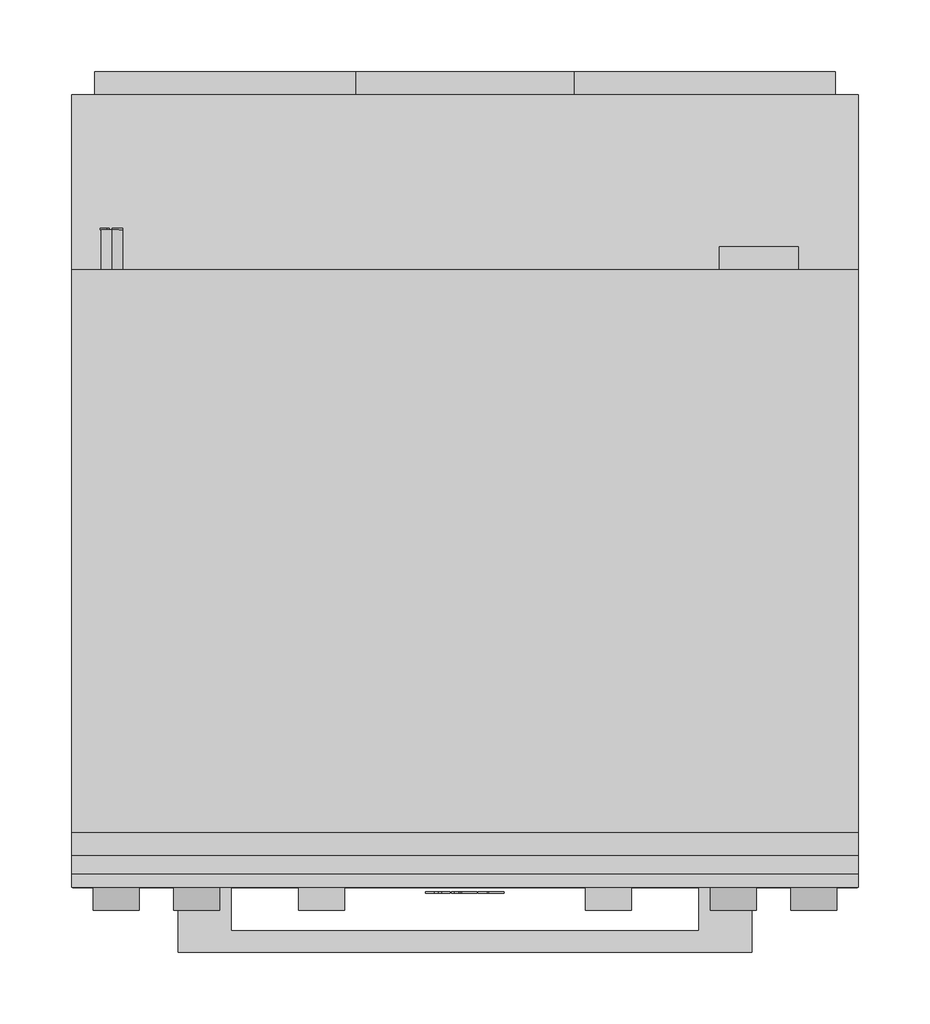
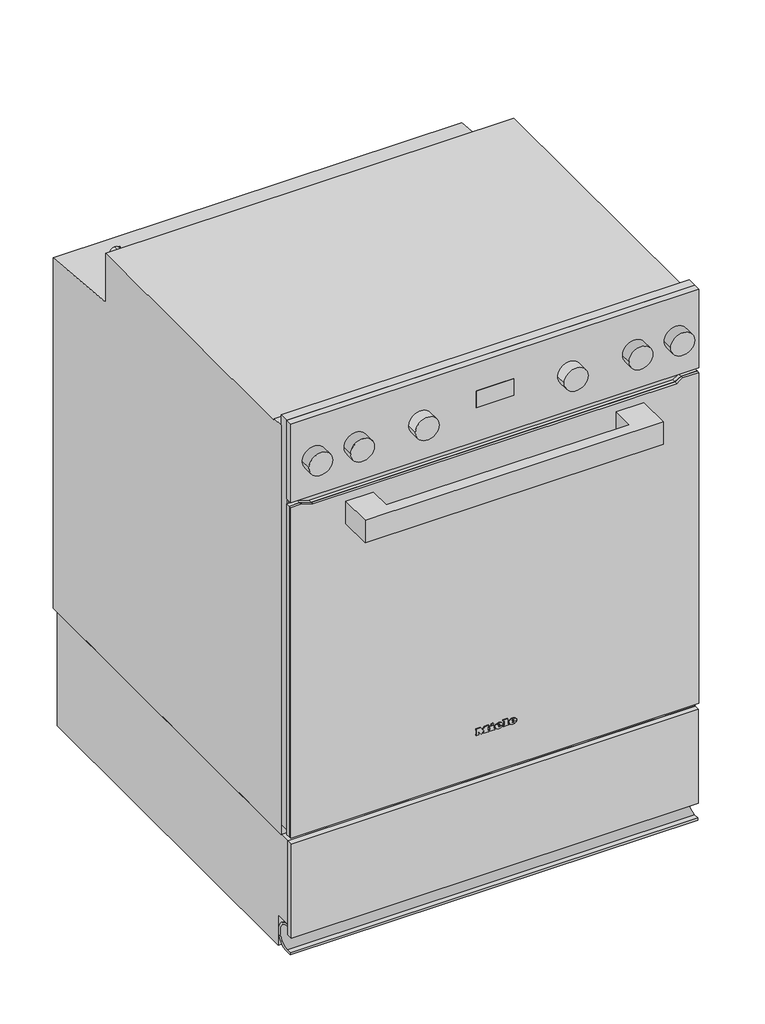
# Not in any storey: 1 proxy.
"""IFC4 building model written with IfcOpenShell, lengths in millimetres."""

import ifcopenshell
import ifcopenshell.guid

model = None  # the IFC model being written
_history = None  # IfcOwnerHistory: only IFC2X3 demands one
_inside = {}  # id of a spatial element -> (the spatial element, [elements in it])
_under = {}  # id of a project, library or spatial element -> (it, [spatial elements below it])
_declared = {}  # id of a project -> (the project, [libraries it declares])
_typed = {}  # id of a type object -> (the type object, [elements of that type])
_made_of = {}  # id of a material, layer set ... -> (it, [elements and type objects made of it])


def new_model(schema):
    """Start an empty IFC model of exactly this schema.

    Asked for "IFC4X3", IfcOpenShell would pick the latest addendum, in which some entities
    have other attributes; the version numbers below select the first issue.
    IFC2X3 requires an IfcOwnerHistory on every rooted entity: one is made here for all.
    """
    global model, _history
    if schema == "IFC4X3":
        model = ifcopenshell.file(schema_version=(4, 3, 0, 0))
    else:
        model = ifcopenshell.file(schema=schema)
    _inside.clear()
    _under.clear()
    _declared.clear()
    _typed.clear()
    _made_of.clear()
    _history = None
    if model.schema == "IFC2X3":
        org = make("IfcOrganization", Name="unknown")
        user = make(
            "IfcPersonAndOrganization",
            ThePerson=make("IfcPerson", FamilyName="unknown"),
            TheOrganization=org,
        )
        app = make(
            "IfcApplication",
            ApplicationDeveloper=org,
            Version="unknown",
            ApplicationFullName="unknown",
            ApplicationIdentifier="unknown",
        )
        _history = make(
            "IfcOwnerHistory",
            OwningUser=user,
            OwningApplication=app,
            ChangeAction="ADDED",
            CreationDate=0,
        )
    return model


def make(cls, **values):
    """One entity of the class cls with the attributes given. An attribute that is None is left unset."""
    return model.create_entity(
        cls, **{name: value for name, value in values.items() if value is not None}
    )


def rooted(cls, **values):
    """An entity with a GlobalId (a new one), such as an element, a storey or a relation."""
    return make(cls, GlobalId=ifcopenshell.guid.new(), OwnerHistory=_history, **values)


def si_unit(unit_type, name, prefix=None):
    """IfcSIUnit, for example si_unit("LENGTHUNIT", "METRE", prefix="MILLI")."""
    return make("IfcSIUnit", UnitType=unit_type, Prefix=prefix, Name=name)


def assignment(units):
    """IfcUnitAssignment: the units of a project."""
    return None if units is None else make("IfcUnitAssignment", Units=units)


def point(xyz):
    """IfcCartesianPoint."""
    return None if xyz is None else make("IfcCartesianPoint", Coordinates=xyz)


def direction(xyz):
    """IfcDirection."""
    return None if xyz is None else make("IfcDirection", DirectionRatios=xyz)


def frame(location, z_axis=None, x_axis=None):
    """IfcAxis2Placement3D, a coordinate frame: its origin and axes. An axis left out is left unset."""
    return make(
        "IfcAxis2Placement3D",
        Location=point(location),
        Axis=direction(z_axis),
        RefDirection=direction(x_axis),
    )


def frame_2d(location, x_axis=None):
    """IfcAxis2Placement2D, a coordinate frame in the plane: its origin and x axis."""
    return make(
        "IfcAxis2Placement2D", Location=point(location), RefDirection=direction(x_axis)
    )


def origin():
    """The frame at (0, 0, 0) with its axes left unset."""
    return frame((0.0, 0.0, 0.0))


def place(relative_to, where):
    """IfcLocalPlacement: puts the frame where relative to a parent placement (None: the world)."""
    return make(
        "IfcLocalPlacement", PlacementRelTo=relative_to, RelativePlacement=where
    )


def context(
    kind, dimensions, precision=None, world=None, true_north=None, identifier=None
):
    """IfcGeometricRepresentationContext, for example the 3D "Model" context."""
    return make(
        "IfcGeometricRepresentationContext",
        ContextIdentifier=identifier,
        ContextType=kind,
        CoordinateSpaceDimension=dimensions,
        Precision=precision,
        WorldCoordinateSystem=world,
        TrueNorth=true_north,
    )


def project(units=None, contexts=None):
    """IfcProject with its units and contexts."""
    return rooted(
        "IfcProject",
        Name="project",
        RepresentationContexts=contexts,
        UnitsInContext=assignment(units),
    )


def spatial(cls, under=None, at=None, **own):
    """A site, building, storey or space (cls), placed at a placement, below another one or the project."""
    s = rooted(cls, ObjectPlacement=at, **own)
    if under is not None:
        _under.setdefault(under.id(), (under, []))[1].append(s)
    return s


def polyline(points):
    """IfcPolyline through the points."""
    return make("IfcPolyline", Points=[point(p) for p in points])


def circle_curve(where, radius):
    """IfcCircle in the frame where."""
    return make("IfcCircle", Position=where, Radius=radius)


def ellipse_curve(where, semi_axis1, semi_axis2):
    """IfcEllipse in the frame where."""
    return make(
        "IfcEllipse", Position=where, SemiAxis1=semi_axis1, SemiAxis2=semi_axis2
    )


def trimmed(basis, trim1, trim2, sense, master):
    """IfcTrimmedCurve: the piece of a basis curve between two trims."""
    return make(
        "IfcTrimmedCurve",
        BasisCurve=basis,
        Trim1=trim1,
        Trim2=trim2,
        SenseAgreement=sense,
        MasterRepresentation=master,
    )


def segment(curve, same_sense, transition):
    """IfcCompositeCurveSegment."""
    return make(
        "IfcCompositeCurveSegment",
        Transition=transition,
        SameSense=same_sense,
        ParentCurve=curve,
    )


def composite_curve(segments, self_intersect=None):
    """IfcCompositeCurve: segments joined end to end."""
    return make("IfcCompositeCurve", Segments=segments, SelfIntersect=self_intersect)


def outline(outer, holes=None, kind="AREA"):
    """IfcArbitraryClosedProfileDef: a profile drawn as a closed curve; with holes, ...WithVoids."""
    if holes is None:
        return make("IfcArbitraryClosedProfileDef", ProfileType=kind, OuterCurve=outer)
    return make(
        "IfcArbitraryProfileDefWithVoids",
        ProfileType=kind,
        OuterCurve=outer,
        InnerCurves=holes,
    )


def extrude(swept, where, along, depth):
    """IfcExtrudedAreaSolid: the profile swept, set in the frame where, extruded along a direction by depth."""
    return make(
        "IfcExtrudedAreaSolid",
        SweptArea=swept,
        Position=where,
        ExtrudedDirection=direction(along),
        Depth=depth,
    )


def faces_of(points, faces, orient=None, outer=None):
    """IfcFace entities. A face is a list of loops; a loop is a list of indices into points, from 0.

    orient and outer hold one flag for each loop. By default every Orientation is true, the
    first loop of a face is its IfcFaceOuterBound and the others are IfcFaceBound.
    """
    made = []
    for i, loops in enumerate(faces):
        bounds = []
        for j, loop in enumerate(loops):
            is_outer = j == 0 if outer is None else outer[i][j]
            bounds.append(
                make(
                    "IfcFaceOuterBound" if is_outer else "IfcFaceBound",
                    Bound=make("IfcPolyLoop", Polygon=[points[k] for k in loop]),
                    Orientation=True if orient is None else orient[i][j],
                )
            )
        made.append(make("IfcFace", Bounds=bounds))
    return made


def faceted_brep(points, faces, orient=None, outer=None, voids=None):
    """IfcFacetedBrep: a solid bounded by flat faces; with voids (closed shells), ...WithVoids."""
    shared = [point(p) for p in points]
    hull = make("IfcClosedShell", CfsFaces=faces_of(shared, faces, orient, outer))
    if voids is None:
        return make("IfcFacetedBrep", Outer=hull)
    return make(
        "IfcFacetedBrepWithVoids",
        Outer=hull,
        Voids=[
            make(cls, CfsFaces=faces_of(shared, fs, o, b)) for cls, fs, o, b in voids
        ],
    )


def shape(context_of_items, identifier, shape_type, items):
    """IfcShapeRepresentation: the items that make up one representation, for example the "Body"."""
    return make(
        "IfcShapeRepresentation",
        ContextOfItems=context_of_items,
        RepresentationIdentifier=identifier,
        RepresentationType=shape_type,
        Items=items,
    )


def source(mapping_origin, context_of_items, identifier, shape_type, items):
    """IfcRepresentationMap: a shape defined once, which mapped items show again and again."""
    return make(
        "IfcRepresentationMap",
        MappingOrigin=mapping_origin,
        MappedRepresentation=shape(context_of_items, identifier, shape_type, items),
    )


def transform(
    local_origin,
    x_axis=None,
    y_axis=None,
    z_axis=None,
    scale=None,
    scale2=None,
    scale3=None,
    uniform=True,
):
    """IfcCartesianTransformationOperator3D, or its non-uniform kind. x_axis, y_axis, z_axis: its Axis1, 2, 3."""
    if uniform:
        return make(
            "IfcCartesianTransformationOperator3D",
            Axis1=direction(x_axis),
            Axis2=direction(y_axis),
            LocalOrigin=point(local_origin),
            Scale=scale,
            Axis3=direction(z_axis),
        )
    return make(
        "IfcCartesianTransformationOperator3DnonUniform",
        Axis1=direction(x_axis),
        Axis2=direction(y_axis),
        LocalOrigin=point(local_origin),
        Scale=scale,
        Axis3=direction(z_axis),
        Scale2=scale2,
        Scale3=scale3,
    )


def mapped(mapping_source, mapping_target):
    """IfcMappedItem: shows the shape of a source again, moved by a transform."""
    return make(
        "IfcMappedItem", MappingSource=mapping_source, MappingTarget=mapping_target
    )


def made_of(thing, what):
    """Note that an element or type object is made of a material, layer set ...; save() writes the relation."""
    if what is not None:
        _made_of.setdefault(what.id(), (what, []))[1].append(thing)
    return thing


def element(
    cls,
    number,
    at=None,
    inside=None,
    cuts=None,
    type_object=None,
    material=None,
    context=None,
    identifier="Body",
    shape_type=None,
    held_by="IfcProductDefinitionShape",
    body=None,
    shapes=None,
    **own,
):
    """One element of the class cls, such as IfcWall. Its Tag is "e" and its number.

    at: its placement. inside: the storey or other place that contains it. cuts: it is an
    opening in that element (IfcRelVoidsElement). A single representation is given by context,
    identifier, shape_type and body (its items); several are given by shapes. held_by: the class
    of the entity that holds the representations. save() writes the other relations.
    """
    e = rooted(cls, Tag="e%d" % number, ObjectPlacement=at, **own)
    if body is not None:
        shapes = [shape(context, identifier, shape_type, body)]
    if shapes is not None:
        e.Representation = make(held_by, Representations=shapes)
    if inside is not None:
        _inside.setdefault(inside.id(), (inside, []))[1].append(e)
    if cuts is not None:
        rooted(
            "IfcRelVoidsElement", RelatingBuildingElement=cuts, RelatedOpeningElement=e
        )
    if type_object is not None:
        _typed.setdefault(type_object.id(), (type_object, []))[1].append(e)
    return made_of(e, material)


def aggregate(whole, parts):
    """IfcRelAggregates: a whole, such as a stair, and the parts it consists of."""
    return rooted("IfcRelAggregates", RelatingObject=whole, RelatedObjects=parts)


def save(model, path):
    """Write the relations noted so far, then the file.

    IfcRelAggregates (storeys below a building ...), IfcRelContainedInSpatialStructure (elements
    in a storey), IfcRelDefinesByType, IfcRelAssociatesMaterial and IfcRelDeclares: one each for
    every whole, place, type object, material and project.
    """
    for whole, parts in _under.values():
        aggregate(whole, parts)
    for where, things in _inside.values():
        rooted(
            "IfcRelContainedInSpatialStructure",
            RelatedElements=things,
            RelatingStructure=where,
        )
    for kind, things in _typed.values():
        rooted("IfcRelDefinesByType", RelatedObjects=things, RelatingType=kind)
    for what, things in _made_of.values():
        rooted("IfcRelAssociatesMaterial", RelatedObjects=things, RelatingMaterial=what)
    for by, libraries in _declared.values():
        rooted("IfcRelDeclares", RelatingContext=by, RelatedDefinitions=libraries)
    model.write(path)


def plane_surface(at):
    """IfcPlane: the flat surface through the origin of the frame at, square to its z axis."""
    return make("IfcPlane", Position=at)


def cylinder_surface(at, radius):
    """IfcCylindricalSurface: all points at the distance radius from the z axis of the frame at."""
    return make("IfcCylindricalSurface", Position=at, Radius=radius)


def revolved_surface(curve, axis_point, axis_direction):
    """IfcSurfaceOfRevolution: the curve turned about the line through axis_point along axis_direction."""
    return make(
        "IfcSurfaceOfRevolution",
        SweptCurve=make("IfcArbitraryOpenProfileDef", ProfileType="CURVE", Curve=curve),
        AxisPosition=make("IfcAxis1Placement", Location=point(axis_point), Axis=direction(axis_direction)),
    )


def extruded_surface(curve, direction_of_extrusion, depth):
    """IfcSurfaceOfLinearExtrusion: the curve pushed along a direction by depth."""
    return make(
        "IfcSurfaceOfLinearExtrusion",
        SweptCurve=make("IfcArbitraryOpenProfileDef", ProfileType="CURVE", Curve=curve),
        ExtrudedDirection=direction(direction_of_extrusion),
        Depth=depth,
    )


def advanced_brep(points, edges, surfaces, faces):
    """IfcAdvancedBrep: a solid bounded by faces that lie on surfaces and meet in shared edges.

    An edge is (start, end): straight between two places in points (the first is 0);
    or (start, end, curve); or (start, end, curve, False) where it runs against its curve.
    A face is (place in surfaces, loops), or (place, loops, False) where it looks against
    its surface's normal. A loop lists edges by number (the first is 1), with a minus sign
    where the edge is run from its end to its start. The first loop is the outer one.
    """
    corners = [point(p) for p in points]
    vertices = [make("IfcVertexPoint", VertexGeometry=c) for c in corners]
    made = []
    for start, end, *more in edges:
        made.append(
            make(
                "IfcEdgeCurve",
                EdgeStart=vertices[start],
                EdgeEnd=vertices[end],
                EdgeGeometry=more[0] if more else make("IfcPolyline", Points=[corners[start], corners[end]]),
                SameSense=more[1] if len(more) > 1 else True,
            )
        )
    hull = []
    for where, loops, *sense in faces:
        bounds = []
        for j, loop in enumerate(loops):
            ring = [make("IfcOrientedEdge", EdgeElement=made[abs(k) - 1], Orientation=k > 0) for k in loop]
            bounds.append(
                make(
                    "IfcFaceOuterBound" if j == 0 else "IfcFaceBound",
                    Bound=make("IfcEdgeLoop", EdgeList=ring),
                    Orientation=True,
                )
            )
        hull.append(make("IfcAdvancedFace", Bounds=bounds, FaceSurface=surfaces[where], SameSense=sense[0] if sense else True))
    return make("IfcAdvancedBrep", Outer=make("IfcClosedShell", CfsFaces=hull))


def specialty_equipment_5bc81cfa(model_context):
    return source(origin(), model_context, "Body", "SolidModel", [
        extrude(outline(polyline([(-273.5, -14.0), (273.5, -14.0), (273.5, -22.0), (-273.5, -22.0), (-273.5, -14.0)])), frame((0.0, 0.0, 28.0), z_axis=(0.0, 0.0, 1.0), x_axis=(1.0, 0.0, 0.0)), (0.0, 0.0, 1.0), 133.5),
        extrude(outline(composite_curve([segment(polyline([(-20.0, 3.3413786), (-20.0, 6.5166751), (-12.6417749, 6.5166751)]), True, "CONTINUOUS"), segment(trimmed(circle_curve(frame_2d((-12.6417749, 23.0333249)), 16.5166498), [point((-12.6417749, 6.5166751))], [point((-11.3579007, 39.5))], True, "CARTESIAN"), True, "CONTINUOUS"), segment(polyline([(-11.3579007, 39.5), (-14.0, 39.5), (-14.0, 42.0), (-12.0, 42.0)]), True, "CONTINUOUS"), segment(trimmed(circle_curve(frame_2d((-12.0, 23.0)), 19.0), [point((-12.0, 42.0))], [point((7.0, 23.0))], False, "CARTESIAN"), True, "CONTINUOUS"), segment(trimmed(circle_curve(frame_2d((-14.9470942, 23.0)), 21.9470942), [point((7.0, 23.0))], [point((3.3965309, 10.9506696))], False, "CARTESIAN"), True, "CONTINUOUS"), segment(trimmed(circle_curve(frame_2d((-12.0, 22.7225846)), 19.381206), [point((3.3965309, 10.9506696))], [point((-12.0, 3.3413786))], False, "CARTESIAN"), True, "CONTINUOUS"), segment(polyline([(-12.0, 3.3413786), (-20.0, 3.3413786)]), True, "CONTINUOUS")], self_intersect=False)), frame((-273.5, 0.0, 0.0), z_axis=(1.0, 0.0, 0.0), x_axis=(0.0, 1.0, 0.0)), (0.0, 0.0, 1.0), 547.0),
        extrude(outline(polyline([(-14.0, 162.0), (522.0, 162.0), (522.0, 0.0), (8.0, 0.0), (8.0, 43.1784801), (-14.0, 43.1784801), (-14.0, 162.0)])), frame((-273.5, 0.0, 0.0), z_axis=(1.0, 0.0, 0.0), x_axis=(0.0, 1.0, 0.0)), (0.0, 0.0, 1.0), 547.0),
        advanced_brep(
        [(21.28, -26.0, 234.133), (21.28, -26.0, 235.042), (27.301, -26.0, 235.042), (16.825, -26.0, 235.042), (19.3, -26.0, 232.0), (27.148, -26.0, 234.133), (24.43, -26.0, 234.133), (22.288, -26.0, 233.125), (21.28, -26.0, 236.194), (21.28, -26.0, 237.175), (22.819, -26.0, 237.175), (22.819, -26.0, 236.194), (21.28, -25.0, 234.133), (22.288, -25.0, 233.125), (24.43, -25.0, 234.133), (27.148, -25.0, 234.133), (19.3, -25.0, 232.0), (16.825, -25.0, 235.042), (27.301, -25.0, 235.042), (21.28, -25.0, 235.042), (21.28, -25.0, 236.194), (22.819, -25.0, 236.194), (22.819, -25.0, 237.175), (21.28, -25.0, 237.175)],
        [
            (0, 1),
            (1, 2),
            (2, 3, ellipse_curve(frame((22.063, -26.0, 235.042), z_axis=(0.0, -1.0, 0.0), x_axis=(-1.0, 0.0, 0.0)), 5.238, 4.329)),
            (3, 4, circle_curve(frame((20.3080491, -26.0, 235.348), z_axis=(0.0, -1.0, 0.0), x_axis=(0.0, 0.0, -1.0)), 3.4964649)),
            (4, 5, circle_curve(frame((21.9581428, -26.0, 237.724), z_axis=(0.0, -1.0, 0.0), x_axis=(0.0, 0.0, -1.0)), 6.3110933)),
            (5, 6),
            (6, 7, circle_curve(frame((22.7279412, -26.0, 234.97), z_axis=(0.0, 1.0, 0.0), x_axis=(0.0, 0.0, -1.0)), 1.896727)),
            (7, 0, circle_curve(frame((22.288, -26.0, 234.133), z_axis=(0.0, 1.0, 0.0), x_axis=(0.0, 0.0, -1.0)), 1.008)),
            (8, 9),
            (9, 10, circle_curve(frame((22.0495, -26.0, 237.175), z_axis=(0.0, 1.0, 0.0), x_axis=(0.0, 0.0, -1.0)), 0.7695)),
            (10, 11),
            (11, 8),
            (12, 13, circle_curve(frame((22.288, -25.0, 234.133), z_axis=(0.0, -1.0, 0.0), x_axis=(0.0, 0.0, -1.0)), 1.008)),
            (13, 14, circle_curve(frame((22.7279412, -25.0, 234.97), z_axis=(0.0, -1.0, 0.0), x_axis=(0.0, 0.0, -1.0)), 1.896727)),
            (14, 15),
            (15, 16, circle_curve(frame((21.9581428, -25.0, 237.724), z_axis=(0.0, 1.0, 0.0), x_axis=(0.0, 0.0, -1.0)), 6.3110933)),
            (16, 17, circle_curve(frame((20.3080491, -25.0, 235.348), z_axis=(0.0, 1.0, 0.0), x_axis=(0.0, 0.0, -1.0)), 3.4964649)),
            (17, 18, ellipse_curve(frame((22.063, -25.0, 235.042), z_axis=(0.0, 1.0, 0.0), x_axis=(-1.0, 0.0, 0.0)), 5.238, 4.329)),
            (18, 19),
            (19, 12),
            (20, 21),
            (21, 22),
            (22, 23, circle_curve(frame((22.0495, -25.0, 237.175), z_axis=(0.0, -1.0, 0.0), x_axis=(0.0, 0.0, -1.0)), 0.7695)),
            (23, 20),
            (0, 12),
            (19, 1),
            (18, 2),
            (5, 15),
            (14, 6),
            (17, 3),
            (13, 7),
            (16, 4),
            (8, 20),
            (23, 9),
            (22, 10),
            (21, 11),
        ],
        [
            plane_surface(frame((21.28, -26.0, 235.042), z_axis=(0.0, -1.0, 0.0), x_axis=(0.0, 0.0, 1.0))),
            plane_surface(frame((21.28, -25.0, 235.042), z_axis=(0.0, 1.0, 0.0), x_axis=(0.0, 0.0, -1.0))),
            plane_surface(frame((21.28, -26.0, 234.133), z_axis=(1.0, 0.0, 0.0), x_axis=(0.0, 1.0, 0.0))),
            plane_surface(frame((21.28, -26.0, 235.042), z_axis=(0.0, 0.0, -1.0), x_axis=(0.0, 1.0, 0.0))),
            plane_surface(frame((27.148, -26.0, 234.133), z_axis=(0.0, 0.0, 1.0), x_axis=(0.0, 1.0, 0.0))),
            extruded_surface(trimmed(ellipse_curve(frame((22.063, -24.0, 235.042), z_axis=(0.0, -1.0, 0.0), x_axis=(-1.0, 0.0, 0.0)), 5.238, 4.329), [point((27.301, -24.0, 235.042))], [point((16.825, -24.0, 235.042))], True, "CARTESIAN"), (0.0, -1.0, 0.0), 1.0),
            revolved_surface(polyline([(22.7279412, -25.0, 233.073273), (22.7279412, -26.0, 233.073273)]), (22.7279412, -25.0, 234.97), (0.0, 1.0, 0.0)),
            revolved_surface(polyline([(22.288, -25.0, 233.125), (22.288, -26.0, 233.125)]), (22.288, -25.0, 234.133), (0.0, 1.0, 0.0)),
            cylinder_surface(frame((20.3080491, -25.0, 235.348), z_axis=(0.0, -1.0, 0.0), x_axis=(0.0, 0.0, -1.0)), 3.4964649),
            cylinder_surface(frame((21.9581428, -25.0, 237.724), z_axis=(0.0, -1.0, 0.0), x_axis=(0.0, 0.0, -1.0)), 6.3110933),
            plane_surface(frame((21.28, -26.0, 236.194), z_axis=(1.0, 0.0, 0.0), x_axis=(0.0, 1.0, 0.0))),
            revolved_surface(polyline([(22.0495, -25.0, 236.40550000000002), (22.0495, -26.0, 236.40550000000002)]), (22.0495, -25.0, 237.175), (0.0, 1.0, 0.0)),
            plane_surface(frame((22.819, -26.0, 237.175), z_axis=(-1.0, 0.0, 0.0), x_axis=(0.0, 1.0, 0.0))),
            plane_surface(frame((22.819, -26.0, 236.194), z_axis=(0.0, 0.0, 1.0), x_axis=(0.0, 1.0, 0.0))),
        ],
        [
            (0, [[1, 2, 3, 4, 5, 6, 7, 8], [9, 10, 11, 12]]),
            (1, [[13, 14, 15, 16, 17, 18, 19, 20], [21, 22, 23, 24]]),
            (2, [[-1, 25, -20, 26]]),
            (3, [[-2, -26, -19, 27]]),
            (4, [[-6, 28, -15, 29]]),
            (5, [[-3, -27, -18, 30]]),
            (6, [[-7, -29, -14, 31]]),
            (7, [[-8, -31, -13, -25]]),
            (8, [[-4, -30, -17, 32]]),
            (9, [[-5, -32, -16, -28]]),
            (10, [[-9, 33, -24, 34]]),
            (11, [[-10, -34, -23, 35]]),
            (12, [[-11, -35, -22, 36]]),
            (13, [[-12, -36, -21, -33]]),
        ],
    ),
        advanced_brep(
        [(2.497, -26.0, 234.133), (2.497, -26.0, 235.042), (8.518, -26.0, 235.042), (-1.958, -26.0, 235.042), (0.517, -26.0, 232.0), (8.365, -26.0, 234.133), (5.647, -26.0, 234.133), (3.505, -26.0, 233.125), (2.497, -26.0, 236.194), (2.497, -26.0, 237.175), (4.036, -26.0, 237.175), (4.036, -26.0, 236.194), (2.497, -25.0, 234.133), (3.505, -25.0, 233.125), (5.647, -25.0, 234.133), (8.365, -25.0, 234.133), (0.517, -25.0, 232.0), (-1.958, -25.0, 235.042), (8.518, -25.0, 235.042), (2.497, -25.0, 235.042), (2.497, -25.0, 236.194), (4.036, -25.0, 236.194), (4.036, -25.0, 237.175), (2.497, -25.0, 237.175)],
        [
            (0, 1),
            (1, 2),
            (2, 3, ellipse_curve(frame((3.28, -26.0, 235.042), z_axis=(0.0, -1.0, 0.0), x_axis=(-1.0, 0.0, 0.0)), 5.238, 4.329)),
            (3, 4, circle_curve(frame((1.5250491, -26.0, 235.348), z_axis=(0.0, -1.0, 0.0), x_axis=(0.0, 0.0, -1.0)), 3.4964649)),
            (4, 5, circle_curve(frame((3.1751428, -26.0, 237.724), z_axis=(0.0, -1.0, 0.0), x_axis=(0.0, 0.0, -1.0)), 6.3110933)),
            (5, 6),
            (6, 7, circle_curve(frame((3.9449412, -26.0, 234.97), z_axis=(0.0, 1.0, 0.0), x_axis=(0.0, 0.0, -1.0)), 1.896727)),
            (7, 0, circle_curve(frame((3.505, -26.0, 234.133), z_axis=(0.0, 1.0, 0.0), x_axis=(0.0, 0.0, -1.0)), 1.008)),
            (8, 9),
            (9, 10, circle_curve(frame((3.2665, -26.0, 237.175), z_axis=(0.0, 1.0, 0.0), x_axis=(0.0, 0.0, -1.0)), 0.7695)),
            (10, 11),
            (11, 8),
            (12, 13, circle_curve(frame((3.505, -25.0, 234.133), z_axis=(0.0, -1.0, 0.0), x_axis=(0.0, 0.0, -1.0)), 1.008)),
            (13, 14, circle_curve(frame((3.9449412, -25.0, 234.97), z_axis=(0.0, -1.0, 0.0), x_axis=(0.0, 0.0, -1.0)), 1.896727)),
            (14, 15),
            (15, 16, circle_curve(frame((3.1751428, -25.0, 237.724), z_axis=(0.0, 1.0, 0.0), x_axis=(0.0, 0.0, -1.0)), 6.3110933)),
            (16, 17, circle_curve(frame((1.5250491, -25.0, 235.348), z_axis=(0.0, 1.0, 0.0), x_axis=(0.0, 0.0, -1.0)), 3.4964649)),
            (17, 18, ellipse_curve(frame((3.28, -25.0, 235.042), z_axis=(0.0, 1.0, 0.0), x_axis=(-1.0, 0.0, 0.0)), 5.238, 4.329)),
            (18, 19),
            (19, 12),
            (20, 21),
            (21, 22),
            (22, 23, circle_curve(frame((3.2665, -25.0, 237.175), z_axis=(0.0, -1.0, 0.0), x_axis=(0.0, 0.0, -1.0)), 0.7695)),
            (23, 20),
            (0, 12),
            (19, 1),
            (18, 2),
            (5, 15),
            (14, 6),
            (17, 3),
            (13, 7),
            (16, 4),
            (8, 20),
            (23, 9),
            (22, 10),
            (21, 11),
        ],
        [
            plane_surface(frame((2.497, -26.0, 235.042), z_axis=(0.0, -1.0, 0.0), x_axis=(0.0, 0.0, 1.0))),
            plane_surface(frame((2.497, -25.0, 235.042), z_axis=(0.0, 1.0, 0.0), x_axis=(0.0, 0.0, -1.0))),
            plane_surface(frame((2.497, -26.0, 234.133), z_axis=(1.0, 0.0, 0.0), x_axis=(0.0, 1.0, 0.0))),
            plane_surface(frame((2.497, -26.0, 235.042), z_axis=(0.0, 0.0, -1.0), x_axis=(0.0, 1.0, 0.0))),
            plane_surface(frame((8.365, -26.0, 234.133), z_axis=(0.0, 0.0, 1.0), x_axis=(0.0, 1.0, 0.0))),
            extruded_surface(trimmed(ellipse_curve(frame((3.28, -24.0, 235.042), z_axis=(0.0, -1.0, 0.0), x_axis=(-1.0, 0.0, 0.0)), 5.238, 4.329), [point((8.518, -24.0, 235.042))], [point((-1.958, -24.0, 235.042))], True, "CARTESIAN"), (0.0, -1.0, 0.0), 1.0),
            revolved_surface(polyline([(3.9449412, -25.0, 233.073273), (3.9449412, -26.0, 233.073273)]), (3.9449412, -25.0, 234.97), (0.0, 1.0, 0.0)),
            revolved_surface(polyline([(3.505, -25.0, 233.125), (3.505, -26.0, 233.125)]), (3.505, -25.0, 234.133), (0.0, 1.0, 0.0)),
            cylinder_surface(frame((1.5250491, -25.0, 235.348), z_axis=(0.0, -1.0, 0.0), x_axis=(0.0, 0.0, -1.0)), 3.4964649),
            cylinder_surface(frame((3.1751428, -25.0, 237.724), z_axis=(0.0, -1.0, 0.0), x_axis=(0.0, 0.0, -1.0)), 6.3110933),
            plane_surface(frame((2.497, -26.0, 236.194), z_axis=(1.0, 0.0, 0.0), x_axis=(0.0, 1.0, 0.0))),
            revolved_surface(polyline([(3.2665, -25.0, 236.40550000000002), (3.2665, -26.0, 236.40550000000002)]), (3.2665, -25.0, 237.175), (0.0, 1.0, 0.0)),
            plane_surface(frame((4.036, -26.0, 237.175), z_axis=(-1.0, 0.0, 0.0), x_axis=(0.0, 1.0, 0.0))),
            plane_surface(frame((4.036, -26.0, 236.194), z_axis=(0.0, 0.0, 1.0), x_axis=(0.0, 1.0, 0.0))),
        ],
        [
            (0, [[1, 2, 3, 4, 5, 6, 7, 8], [9, 10, 11, 12]]),
            (1, [[13, 14, 15, 16, 17, 18, 19, 20], [21, 22, 23, 24]]),
            (2, [[-1, 25, -20, 26]]),
            (3, [[-2, -26, -19, 27]]),
            (4, [[-6, 28, -15, 29]]),
            (5, [[-3, -27, -18, 30]]),
            (6, [[-7, -29, -14, 31]]),
            (7, [[-8, -31, -13, -25]]),
            (8, [[-4, -30, -17, 32]]),
            (9, [[-5, -32, -16, -28]]),
            (10, [[-9, 33, -24, 34]]),
            (11, [[-10, -34, -23, 35]]),
            (12, [[-11, -35, -22, 36]]),
            (13, [[-12, -36, -21, -33]]),
        ],
    ),
        extrude(outline(polyline([(240.469, -7.34), (239.011, -6.656), (240.433, -3.605), (241.891, -4.28), (240.469, -7.34)])), frame((0.0, -26.0, 0.0), z_axis=(0.0, 1.0, 0.0), x_axis=(0.0, 0.0, 1.0)), (0.0, 0.0, 1.0), 1.0),
        extrude(outline(polyline([(238.813, -9.563), (237.202, -9.563), (237.202, -8.492), (233.512, -8.492), (233.512, -9.563), (232.0, -9.563), (232.0, -2.462), (233.512, -2.462), (233.512, -3.506), (238.813, -3.506), (238.813, -9.563)])), frame((0.0, -26.0, 0.0), z_axis=(0.0, 1.0, 0.0), x_axis=(0.0, 0.0, 1.0)), (0.0, 0.0, 1.0), 1.0),
        extrude(outline(polyline([(239.533, 9.022), (239.533, 10.102), (233.512, 10.102), (233.512, 9.022), (232.0, 9.022), (232.0, 16.321), (233.512, 16.321), (233.512, 15.214), (241.0, 15.214), (241.0, 9.022), (239.533, 9.022)])), frame((0.0, -26.0, 0.0), z_axis=(0.0, 1.0, 0.0), x_axis=(0.0, 0.0, 1.0)), (0.0, 0.0, 1.0), 1.0),
        extrude(outline(polyline([(239.533, -27.5), (239.533, -26.411), (233.512, -26.411), (233.512, -27.5), (232.0, -27.5), (232.0, -23.54), (233.512, -23.54), (233.512, -24.62), (237.3341247, -24.62), (232.0, -20.597), (237.4402223, -16.556), (233.512, -16.556), (233.512, -17.663), (232.0, -17.663), (232.0, -10.481), (233.512, -10.481), (233.512, -11.624), (239.533, -11.624), (239.533, -10.481), (241.0, -10.481), (241.0, -15.962), (237.625, -18.59), (241.0, -21.227), (241.0, -27.5), (239.533, -27.5)])), frame((0.0, -26.0, 0.0), z_axis=(0.0, 1.0, 0.0), x_axis=(0.0, 0.0, 1.0)), (0.0, 0.0, 1.0), 1.0),
        extrude(outline(polyline([(-163.0, -22.0), (-163.0, -52.0), (163.0, -52.0), (163.0, -22.0), (200.0, -22.0), (200.0, -67.0), (-200.0, -67.0), (-200.0, -22.0), (-163.0, -22.0)])), frame((0.0, 0.0, 591.1002211), z_axis=(0.0, 0.0, 1.0), x_axis=(1.0, 0.0, 0.0)), (0.0, 0.0, 1.0), 31.8000183),
        extrude(outline(polyline([(639.5, -274.0), (170.0, -274.0), (170.0, 274.0), (639.5, 274.0), (639.5, 252.5209298), (634.5, 244.0), (634.5, -244.0), (639.5, -260.3542631), (639.5, -274.0)])), frame((0.0, -18.0, 0.0), z_axis=(0.0, 1.0, 0.0), x_axis=(0.0, 0.0, 1.0)), (0.0, 0.0, 1.0), 5.0),
        extrude(outline(polyline([(639.5, -274.0), (170.0, -274.0), (170.0, 274.0), (639.5, 274.0), (639.5, 252.5209298), (634.5, 244.0), (634.5, -244.0), (639.5, -260.3542631), (639.5, -274.0)])), frame((0.0, -22.0, 0.0), z_axis=(0.0, 1.0, 0.0), x_axis=(0.0, 0.0, 1.0)), (0.0, 0.0, 1.0), 4.0),
        extrude(outline(polyline([(25.25, -22.0), (-25.25, -22.0), (-25.25, -20.0), (25.25, -20.0), (25.25, -22.0)])), frame((0.0, 0.0, 694.5), z_axis=(0.0, 0.0, 1.0), x_axis=(1.0, 0.0, 0.0)), (0.0, 0.0, 1.0), 23.5),
        faceted_brep([(274.0, -22.0, 758.0), (-274.0, -22.0, 758.0), (-274.0, -22.0, 646.5), (274.0, -22.0, 646.5), (-25.25, -22.0, 718.0), (25.25, -22.0, 718.0), (25.25, -22.0, 694.5), (-25.25, -22.0, 694.5), (274.0, -13.0, 758.0), (274.0, -13.0, 646.5), (-274.0, -13.0, 646.5), (-274.0, -13.0, 758.0), (25.25, -20.0, 718.0), (-25.25, -20.0, 718.0), (-25.25, -20.0, 694.5), (25.25, -20.0, 694.5)], [[[0, 1, 2, 3], [4, 5, 6, 7]], [[8, 9, 10, 11]], [[1, 0, 8, 11]], [[2, 1, 11, 10]], [[3, 2, 10, 9]], [[0, 3, 9, 8]], [[12, 13, 14, 15]], [[13, 12, 5, 4]], [[14, 13, 4, 7]], [[15, 14, 7, 6]], [[12, 15, 6, 5]]]),
        extrude(outline(composite_curve([segment(trimmed(circle_curve(frame_2d((700.5, -100.0)), 16.0), [point((700.5, -116.0))], [point((700.5, -84.0))], False, "CARTESIAN"), True, "CONTINUOUS"), segment(trimmed(circle_curve(frame_2d((700.5, -100.0)), 16.0), [point((700.5, -84.0))], [point((700.5, -116.0))], False, "CARTESIAN"), True, "CONTINUOUS")], self_intersect=False)), frame((0.0, -38.0, 0.0), z_axis=(0.0, 1.0, 0.0), x_axis=(0.0, 0.0, 1.0)), (0.0, 0.0, 1.0), 16.0),
        extrude(outline(composite_curve([segment(trimmed(circle_curve(frame_2d((700.5, 100.0)), 16.0), [point((700.5, 84.0))], [point((700.5, 116.0))], False, "CARTESIAN"), True, "CONTINUOUS"), segment(trimmed(circle_curve(frame_2d((700.5, 100.0)), 16.0), [point((700.5, 116.0))], [point((700.5, 84.0))], False, "CARTESIAN"), True, "CONTINUOUS")], self_intersect=False)), frame((0.0, -38.0, 0.0), z_axis=(0.0, 1.0, 0.0), x_axis=(0.0, 0.0, 1.0)), (0.0, 0.0, 1.0), 16.0),
        extrude(outline(composite_curve([segment(trimmed(circle_curve(frame_2d((700.5, -243.0)), 16.0), [point((700.5, -259.0))], [point((700.5, -227.0))], False, "CARTESIAN"), True, "CONTINUOUS"), segment(trimmed(circle_curve(frame_2d((700.5, -243.0)), 16.0), [point((700.5, -227.0))], [point((700.5, -259.0))], False, "CARTESIAN"), True, "CONTINUOUS")], self_intersect=False)), frame((0.0, -38.0, 0.0), z_axis=(0.0, 1.0, 0.0), x_axis=(0.0, 0.0, 1.0)), (0.0, 0.0, 1.0), 16.0),
        extrude(outline(composite_curve([segment(trimmed(circle_curve(frame_2d((700.5, -187.0)), 16.0), [point((700.5, -203.0))], [point((700.5, -171.0))], False, "CARTESIAN"), True, "CONTINUOUS"), segment(trimmed(circle_curve(frame_2d((700.5, -187.0)), 16.0), [point((700.5, -171.0))], [point((700.5, -203.0))], False, "CARTESIAN"), True, "CONTINUOUS")], self_intersect=False)), frame((0.0, -38.0, 0.0), z_axis=(0.0, 1.0, 0.0), x_axis=(0.0, 0.0, 1.0)), (0.0, 0.0, 1.0), 16.0),
        extrude(outline(composite_curve([segment(trimmed(circle_curve(frame_2d((700.5, 187.0)), 16.0), [point((700.5, 203.0))], [point((700.5, 171.0))], False, "CARTESIAN"), True, "CONTINUOUS"), segment(trimmed(circle_curve(frame_2d((700.5, 187.0)), 16.0), [point((700.5, 171.0))], [point((700.5, 203.0))], False, "CARTESIAN"), True, "CONTINUOUS")], self_intersect=False)), frame((0.0, -38.0, 0.0), z_axis=(0.0, 1.0, 0.0), x_axis=(0.0, 0.0, 1.0)), (0.0, 0.0, 1.0), 16.0),
        extrude(outline(composite_curve([segment(trimmed(circle_curve(frame_2d((700.5, 243.0)), 16.0), [point((700.5, 227.0))], [point((700.5, 259.0))], False, "CARTESIAN"), True, "CONTINUOUS"), segment(trimmed(circle_curve(frame_2d((700.5, 243.0)), 16.0), [point((700.5, 259.0))], [point((700.5, 227.0))], False, "CARTESIAN"), True, "CONTINUOUS")], self_intersect=False)), frame((0.0, -38.0, 0.0), z_axis=(0.0, 1.0, 0.0), x_axis=(0.0, 0.0, 1.0)), (0.0, 0.0, 1.0), 16.0),
        faceted_brep([(274.0, 0.0, 162.0), (274.0, 530.0, 162.0), (274.0, 530.0, 659.4219562), (274.0, 408.0, 670.5494875), (274.0, 408.0, 740.0), (274.0, 16.0, 740.0), (274.0, 16.0, 743.0), (274.0, 0.0, 743.0), (-274.0, 0.0, 162.0), (-274.0, 0.0, 743.0), (-274.0, 16.0, 743.0), (-274.0, 16.0, 740.0), (-274.0, 408.0, 740.0), (-274.0, 408.0, 670.5494875), (-274.0, 530.0, 659.4219562), (-274.0, 530.0, 162.0), (-235.0, 0.0, 590.0), (235.0, 0.0, 590.0), (235.0, 0.0, 204.0), (-235.0, 0.0, 204.0), (235.0, 433.0, 590.0), (-235.0, 433.0, 590.0), (-235.0, 433.0, 204.0), (235.0, 433.0, 204.0)], [[[0, 1, 2, 3, 4, 5, 6, 7]], [[8, 9, 10, 11, 12, 13, 14, 15]], [[1, 0, 8, 15]], [[1, 15, 14, 2]], [[11, 5, 4, 12]], [[0, 7, 9, 8], [16, 17, 18, 19]], [[6, 5, 11, 10]], [[7, 6, 10, 9]], [[13, 3, 2, 14]], [[3, 13, 12, 4]], [[20, 21, 22, 23]], [[21, 20, 17, 16]], [[22, 21, 16, 19]], [[23, 22, 19, 18]], [[20, 23, 18, 17]]]),
        extrude(outline(polyline([(720.0464496, -245.8425503), (718.7915157, -245.8425503), (718.7915157, -239.8786472), (715.8088265, -239.8786472), (715.8088265, -245.5253567), (714.5510117, -245.5253567), (714.5510117, -239.8786472), (711.2605911, -239.8786472), (711.2605911, -245.9946301), (709.9978772, -245.9946301), (709.9978772, -238.6251477), (720.0464496, -238.6251477), (720.0464496, -245.8425503)])), frame((0.0, 436.0, 0.0), z_axis=(0.0, 1.0, 0.0), x_axis=(0.0, 0.0, 1.0)), (0.0, 0.0, 1.0), 1.0),
        extrude(outline(polyline([(720.0498619, -249.1372374), (711.2558696, -249.1372374), (711.2558696, -254.1557124), (710.0011788, -254.1557124), (710.0011788, -247.8766443), (720.0498619, -247.8766443), (720.0498619, -249.1372374)])), frame((0.0, 436.0, 0.0), z_axis=(0.0, 1.0, 0.0), x_axis=(0.0, 0.0, 1.0)), (0.0, 0.0, 1.0), 1.0),
        extrude(outline(composite_curve([segment(trimmed(circle_curve(frame_2d((715.0, -246.0)), 7.5), [point((707.5, -246.0))], [point((722.5, -246.0))], False, "CARTESIAN"), True, "CONTINUOUS"), segment(trimmed(circle_curve(frame_2d((715.0, -246.0)), 7.5), [point((722.5, -246.0))], [point((707.5, -246.0))], False, "CARTESIAN"), True, "CONTINUOUS")], self_intersect=False)), frame((0.0, 406.0, 0.0), z_axis=(0.0, 1.0, 0.0), x_axis=(0.0, 0.0, 1.0)), (0.0, 0.0, 1.0), 30.0),
        extrude(outline(polyline([(499.5, 76.0), (540.5, 76.0), (540.5, -76.0), (499.5, -76.0), (499.5, -258.0), (351.6961275, -258.0), (351.6961275, -76.0), (326.5, -76.0), (326.5, 76.0), (351.6961275, 76.0), (351.6961275, 258.0), (499.5, 258.0), (499.5, 76.0)])), frame((0.0, 530.0, 0.0), z_axis=(0.0, 1.0, 0.0), x_axis=(0.0, 0.0, 1.0)), (0.0, 0.0, 1.0), 16.0),
        extrude(outline(polyline([(232.3464926, 408.0), (177.3464926, 408.0), (177.3464926, 424.0), (232.3464926, 424.0), (232.3464926, 408.0)])), frame((0.0, 0.0, 690.0), z_axis=(0.0, 0.0, 1.0), x_axis=(1.0, 0.0, 0.0)), (0.0, 0.0, 1.0), 26.0),
        extrude(outline(polyline([(177.0, 274.0), (758.0, 274.0), (758.0, -274.0), (177.0, -274.0), (177.0, -272.0), (646.0, -272.0), (646.0, 272.0), (177.0, 272.0), (177.0, 274.0)])), frame((0.0, -13.0, 0.0), z_axis=(0.0, 1.0, 0.0), x_axis=(0.0, 0.0, 1.0)), (0.0, 0.0, 1.0), 13.0),
    ])


model = new_model("IFC4")

# Units and contexts
model_context = context("Model", 3, world=origin())
ifc_project = project(units=[si_unit("LENGTHUNIT", "METRE", prefix="MILLI")], contexts=[model_context])

# Site, building
site = spatial("IfcSite", under=ifc_project)
building = spatial("IfcBuilding", under=site)

# Proxy
placement = place(None, origin())
specialty_equipment_shape = specialty_equipment_5bc81cfa(model_context)
element("IfcBuildingElementProxy", 1, Name="12395270_CH_H2456-55EP_BRWS : 22245617_CH_12395270_H2456-55EP_BRWS", ObjectType="12395270_CH_H2456-55EP_BRWS : 22245617_CH_12395270_H2456-55EP_BRWS", at=placement, inside=building, context=model_context, shape_type="MappedRepresentation", body=[
    mapped(specialty_equipment_shape, transform((0.0, 0.0, 0.0), x_axis=(1.0, 0.0, 0.0), y_axis=(0.0, 1.0, 0.0), z_axis=(0.0, 0.0, 1.0))),
])

save(model, "model.ifc")
